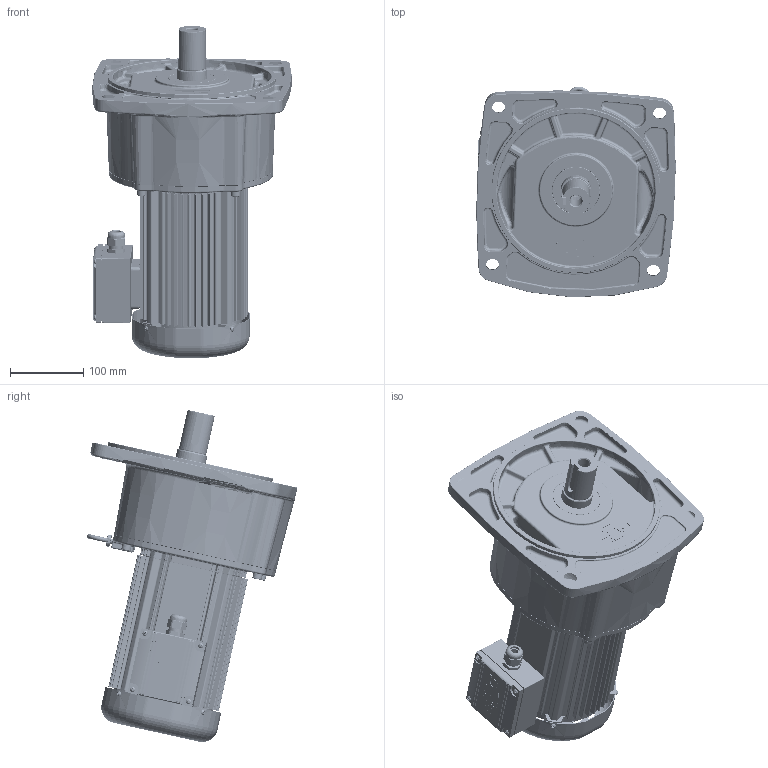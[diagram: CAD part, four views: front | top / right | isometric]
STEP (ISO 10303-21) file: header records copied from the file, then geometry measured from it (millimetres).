
FILE_DESCRIPTION(/* description */ (''),/* implementation_level */ '2;1');
FILE_NAME(/* name */ 'Z:\동력 3D 파일\PAF40_0.75kW_3D.stp',/* time_stamp */ '2021-11-08T15:44:36+09:00',/* author */ ('jaebok'),/* organization */ (''),/* preprocessor_version */ 'ST-DEVELOPER v18.1',/* originating_system */ 'Autodesk Inventor 2022',/* authorisation */ '');
FILE_SCHEMA (('AUTOMOTIVE_DESIGN { 1 0 10303 214 3 1 1 }'));
Products named in the file (1): 부품17
Bounding box: 271.27 x 286.81 x 451.88 mm (x, y, z)
Volume: 3685792.5 mm3; surface area: 963559.9 mm2
Topology: 1 solids, 32 shells, 4232 faces, 10577 edges, 6226 vertices
Faces by surface type: bspline 1229, plane 1118, cylinder 1057, torus 428, cone 253, sphere 147
Full cylindrical faces by diameter (mm): 2 x1, 3.25 x1, 3.5 x4, 3.6 x4, 4 x22, 5 x13, 6 x8, 6.8 x5, 7 x13, 8 x15, 9 x4, 10 x1, 12.5 x1, 13 x4, 15 x1, 16 x1, 18 x1, 20 x2, 20.6 x1, 21 x2, 23.6 x1, 25 x1, 28 x1, 30 x1, 35 x1, 36 x1, 38 x1, 39.6 x1, 40 x2, 40.15 x1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
Entity records: 173762 total; most frequent: CARTESIAN_POINT 77027, ORIENTED_EDGE 20554, DIRECTION 17660, EDGE_CURVE 10277, AXIS2_PLACEMENT_3D 7279, VERTEX_POINT 6225, EDGE_LOOP 4458, FACE_OUTER_BOUND 4232
